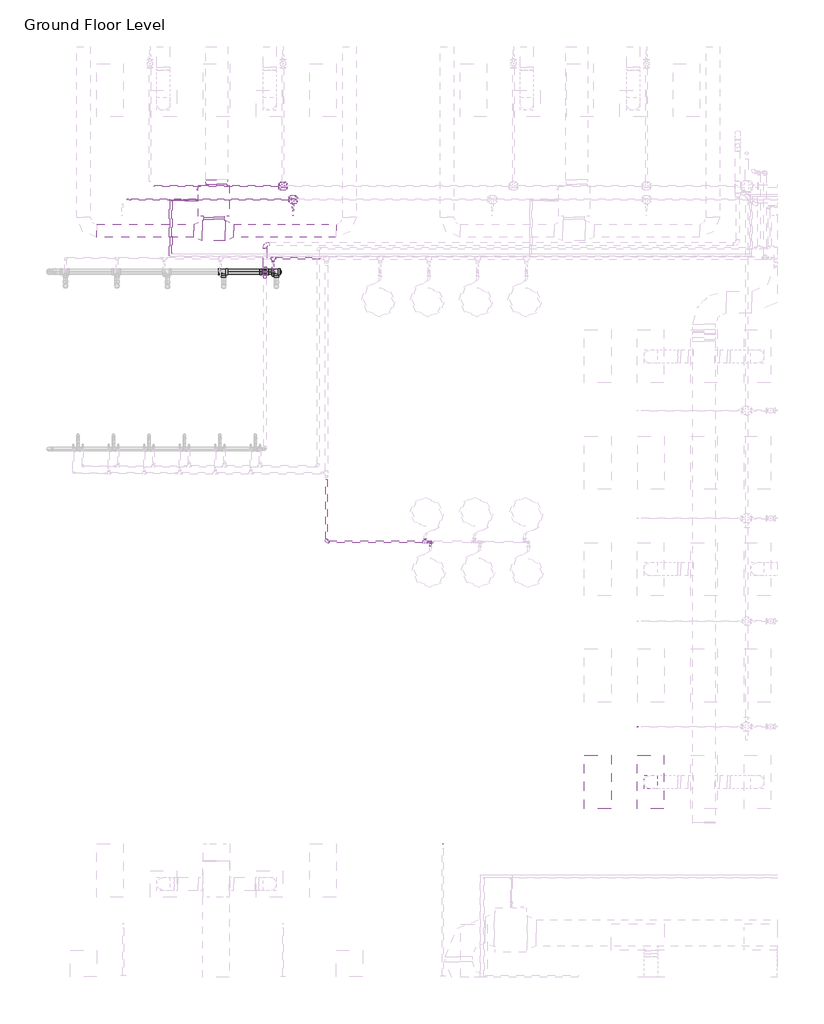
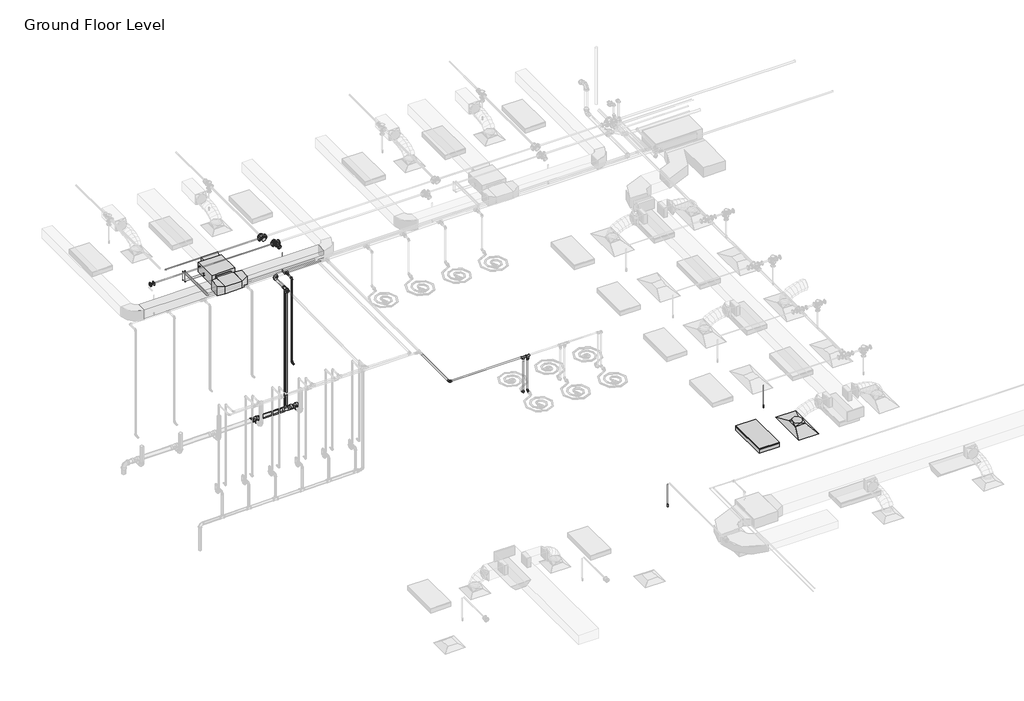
# One storey, part 44 of 75: 28 pipe segments, 25 pipe fittings, 5 duct fittings, 3 duct segments, 3 fire suppression terminals, 1 air terminal, 1 light fixture, 1 proxy.
"""IFC4 building model written with IfcOpenShell, lengths in millimetres."""

from ifc_helpers import new_model, si_unit, point, frame, frame_2d, origin, place, context, project, spatial, polyline, circle_curve, trimmed, segment, composite_curve, outline, extrude, transform, mapped, element, save
from components import m_return_diffuser_1200x600_1200_x_600_face_300_x_300_d1983ef6, fcu_daikin_iu_bad131e0, m_rectangular_tee_standard_fa4de0e8, m_rectangular_transition_angle_45_degree_5a11b24e, m_rectangular_transition_angle_45_degree_6e5ad010, m_rectangular_to_round_transition_angle_45_degree_641efff0, m_sprinkler_dry_pendent_hosted_15_mm_dry_pendent_9bda8e11, m_sprinkler_pendent_15_mm_pendent_06fcbd8e, m_troffer_light_parabolic_rectangular1_0600x1200mm_4_lamp_86473d4a, m_bend_pvc_sch_40_dwv_standard_1fdc8943, m_elbow_generic_standard_a088f956, m_elbow_generic_standard_2a704253, m_plug_pvc_sch_40_dwv_standard_6c40de1c, m_reducer_flanged_cs_class_150_standard_ccf252ad, m_reducer_pvc_sch_40_dwv_standard_d6f2da47, m_tee_reducing_sanitary_pvc_sch_40_dwv_standard_b49161a9, m_tee_reducing_sanitary_pvc_sch_40_dwv_standard_35af4ecc, m_tee_reducing_sanitary_pvc_sch_40_dwv_standard_9cd1363b, m_tee_round_base_flanged_cs_class_150_standard_7e5987a1, standard_517a5a8d, standard_08ff6011, standard_d0d0b892, standard_69e4ce0e

model = new_model("IFC4")

# Units and contexts
model_context = context("Model", 3, world=origin())
ifc_project = project(units=[si_unit("LENGTHUNIT", "METRE", prefix="MILLI")], contexts=[model_context])

# Site, building, storey
site = spatial("IfcSite", under=ifc_project)
building = spatial("IfcBuilding", under=site)
storey = spatial("IfcBuildingStorey", under=building, Name="Ground Floor Level", Elevation=900.0)

# Air terminal
placement = place(None, origin())
m_return_diffuser_1200x600_1200_x_600_face_300_x_300_shape = m_return_diffuser_1200x600_1200_x_600_face_300_x_300_d1983ef6(model_context)
element("IfcAirTerminal", 1, ObjectType="M_Supply Diffuser 1200x600 : 1200 x 600 Face 300 x 300 Connection", at=placement, inside=storey, context=model_context, shape_type="MappedRepresentation", body=[
    mapped(m_return_diffuser_1200x600_1200_x_600_face_300_x_300_shape, transform((-8142.6846929, 1635.2153534, 3650.0), x_axis=(0.0, 1.0, 0.0), y_axis=(-1.0, 0.0, 0.0), z_axis=(0.0, 0.0, 1.0))),
])

# Proxy
fcu_daikin_iu_shape = fcu_daikin_iu_bad131e0(model_context)
element("IfcBuildingElementProxy", 2, Name="FCU-DAIKIN IU : 4.5kW, 230V/50Hz/1Ph", ObjectType="FCU-DAIKIN IU : 4.5kW, 230V/50Hz/1Ph", at=placement, inside=storey, context=model_context, shape_type="MappedRepresentation", body=[
    mapped(fcu_daikin_iu_shape, transform((-17997.2327605, 14745.2153534, 3934.0881511), x_axis=(-1.0, 0.0, 0.0), y_axis=(0.0, -1.0, 0.0), z_axis=(0.0, 0.0, 1.0))),
])

# Duct fittings
m_rectangular_tee_standard_shape = m_rectangular_tee_standard_fa4de0e8(model_context)
element("IfcDuctFitting", 3, ObjectType="M_Rectangular Tee : Standard", at=placement, inside=storey, context=model_context, shape_type="MappedRepresentation", body=[
    mapped(m_rectangular_tee_standard_shape, transform((-17997.2327605, 14069.8153534, 4075.2881511), x_axis=(-1.0, 0.0, 0.0), y_axis=(0.0, -1.0, 0.0), z_axis=(0.0, 0.0, 1.0))),
])
m_rectangular_transition_angle_45_degree_shape = m_rectangular_transition_angle_45_degree_5a11b24e(model_context)
element("IfcDuctFitting", 4, ObjectType="M_Rectangular Transition - Angle : 45 Degree", at=placement, inside=storey, context=model_context, shape_type="MappedRepresentation", body=[
    mapped(m_rectangular_transition_angle_45_degree_shape, transform((-17933.7327605, 15120.6153534, 4100.0006511), x_axis=(0.0, 1.0, 0.0), y_axis=(-1.0, 0.0, 0.0), z_axis=(0.0, 0.0, 1.0))),
])
m_rectangular_transition_angle_45_degree_2_shape = m_rectangular_transition_angle_45_degree_6e5ad010(model_context)
element("IfcDuctFitting", 5, ObjectType="M_Rectangular Transition - Angle : 45 Degree", at=placement, inside=storey, context=model_context, shape_type="MappedRepresentation", body=[
    mapped(m_rectangular_transition_angle_45_degree_2_shape, transform((-17741.2952605, 14069.8153534, 4075.2881511), x_axis=(1.0, 0.0, 0.0), y_axis=(0.0, 1.0, 0.0), z_axis=(0.0, 0.0, 1.0))),
])
element("IfcDuctFitting", 6, ObjectType="M_Rectangular Transition - Angle : 45 Degree", at=placement, inside=storey, context=model_context, shape_type="MappedRepresentation", body=[
    mapped(m_rectangular_transition_angle_45_degree_2_shape, transform((-18253.1702605, 14069.8153534, 4075.2881511), x_axis=(-1.0, 0.0, 0.0), y_axis=(0.0, -1.0, 0.0), z_axis=(0.0, 0.0, 1.0))),
])
m_rectangular_to_round_transition_angle_45_degree_shape = m_rectangular_to_round_transition_angle_45_degree_641efff0(model_context)
element("IfcDuctFitting", 7, ObjectType="M_Rectangular to Round Transition - Angle : 45 Degree", at=placement, inside=storey, context=model_context, shape_type="MappedRepresentation", body=[
    mapped(m_rectangular_to_round_transition_angle_45_degree_shape, transform((-8142.6846929, 1635.2153534, 3751.6), x_axis=(0.0, 0.0, 1.0), y_axis=(-1.0, 0.0, 0.0), z_axis=(0.0, -1.0, 0.0))),
])

# Duct segments
element("IfcDuctSegment", 8, ObjectType="Radius Elbows / Taps", at=placement, inside=storey, context=model_context, shape_type="SweptSolid", body=[
    extrude(outline(polyline([(-18228.1702605, 14369.8153534), (-17766.2952605, 14369.8153534), (-17766.2952605, 14325.7528534), (-18228.1702605, 14325.7528534), (-18228.1702605, 14369.8153534)])), frame((0.0, 0.0, 3968.1381511), z_axis=(0.0, 0.0, 1.0), x_axis=(1.0, 0.0, 0.0)), (0.0, 0.0, 1.0), 214.3),
])
element("IfcDuctSegment", 9, ObjectType="Radius Elbows / Taps", at=placement, inside=storey, context=model_context, shape_type="SweptSolid", body=[
    extrude(outline(polyline([(-17545.8948503, 13919.8153534), (-17545.8948503, 14219.8153534), (-15237.2327605, 14219.8153534), (-15237.2327605, 13919.8153534), (-17545.8948503, 13919.8153534)])), frame((0.0, 0.0, 3925.2881511), z_axis=(0.0, 0.0, 1.0), x_axis=(1.0, 0.0, 0.0)), (0.0, 0.0, 1.0), 300.0),
])
element("IfcDuctSegment", 10, ObjectType="Radius Elbows / Taps", at=placement, inside=storey, context=model_context, shape_type="SweptSolid", body=[
    extrude(outline(polyline([(-18448.5706707, 14219.8153534), (-18448.5706707, 13919.8153534), (-20637.2327605, 13919.8153534), (-20637.2327605, 14219.8153534), (-18448.5706707, 14219.8153534)])), frame((0.0, 0.0, 3925.2881511), z_axis=(0.0, 0.0, 1.0), x_axis=(1.0, 0.0, 0.0)), (0.0, 0.0, 1.0), 300.0),
])

# Fire suppression terminals
m_sprinkler_dry_pendent_hosted_15_mm_dry_pendent_shape = m_sprinkler_dry_pendent_hosted_15_mm_dry_pendent_9bda8e11(model_context)
element("IfcFireSuppressionTerminal", 11, ObjectType="M_Sprinkler - Dry - Pendent - Hosted : 15 mm Dry Pendent", at=placement, inside=storey, context=model_context, shape_type="MappedRepresentation", body=[
    mapped(m_sprinkler_dry_pendent_hosted_15_mm_dry_pendent_shape, transform((-8437.2327605, 2881.5134565, 3650.0), x_axis=(1.0, 0.0, 0.0), y_axis=(0.0, -1.0, 0.0), z_axis=(0.0, 0.0, -1.0))),
])
element("IfcFireSuppressionTerminal", 12, ObjectType="M_Sprinkler - Dry - Pendent - Hosted : 15 mm Dry Pendent", at=placement, inside=storey, context=model_context, shape_type="MappedRepresentation", body=[
    mapped(m_sprinkler_dry_pendent_hosted_15_mm_dry_pendent_shape, transform((-12837.2327605, 235.2153534, 3650.0), x_axis=(1.0, 0.0, 0.0), y_axis=(0.0, -1.0, 0.0), z_axis=(0.0, 0.0, -1.0))),
])
m_sprinkler_pendent_15_mm_pendent_shape = m_sprinkler_pendent_15_mm_pendent_06fcbd8e(model_context)
element("IfcFireSuppressionTerminal", 13, ObjectType="M_Sprinkler - Pendent : 15 mm Pendent", at=placement, inside=storey, context=model_context, shape_type="MappedRepresentation", body=[
    mapped(m_sprinkler_pendent_15_mm_pendent_shape, transform((-16210.1138499, 14412.7243649, 3650.0), x_axis=(1.0, 0.0, 0.0), y_axis=(0.0, 1.0, 0.0), z_axis=(0.0, 0.0, 1.0))),
])

# Light fixture
m_troffer_light_parabolic_rectangular1_0600x1200mm_4_lamp_shape = m_troffer_light_parabolic_rectangular1_0600x1200mm_4_lamp_86473d4a(model_context)
element("IfcLightFixture", 14, ObjectType="M_Troffer Light - Parabolic Rectangular1 : 0600x1200mm(4 Lamp) - 277V 2", at=placement, inside=storey, context=model_context, shape_type="MappedRepresentation", body=[
    mapped(m_troffer_light_parabolic_rectangular1_0600x1200mm_4_lamp_shape, transform((-9396.6986926, 1653.918855, 3650.0), x_axis=(0.0, 1.0, 0.0), y_axis=(-1.0, 0.0, 0.0), z_axis=(0.0, 0.0, 1.0))),
])

# Pipe fittings
m_bend_pvc_sch_40_dwv_standard_shape = m_bend_pvc_sch_40_dwv_standard_1fdc8943(model_context)
element("IfcPipeFitting", 15, ObjectType="M_Bend - PVC - Sch 40 - DWV : Standard", at=placement, inside=storey, context=model_context, shape_type="MappedRepresentation", body=[
    mapped(m_bend_pvc_sch_40_dwv_standard_shape, transform((-16844.3158637, 13768.8048932, 4050.2768363), x_axis=(-0.9999500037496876, 0.0, -0.009999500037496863), y_axis=(0.0, -1.0, 0.0), z_axis=(-0.009999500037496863, 0.0, 0.9999500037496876))),
])
m_elbow_generic_standard_shape = m_elbow_generic_standard_a088f956(model_context)
element("IfcPipeFitting", 16, ObjectType="M_Elbow - Generic : Standard", at=placement, inside=storey, context=model_context, shape_type="MappedRepresentation", body=[
    mapped(m_elbow_generic_standard_shape, transform((-18945.3327605, 14745.2153534, 4034.0881511), x_axis=(-1.0, 0.0, 0.0), y_axis=(0.0, 0.0, 1.0), z_axis=(0.0, 1.0, 0.0))),
])
element("IfcPipeFitting", 17, ObjectType="M_Elbow - Generic : Standard", at=placement, inside=storey, context=model_context, shape_type="MappedRepresentation", body=[
    mapped(m_elbow_generic_standard_shape, transform((-18945.3327605, 14745.2153534, 4380.0), x_axis=(0.0, 0.0, 1.0), y_axis=(0.0, -1.0, 0.0), z_axis=(1.0, 0.0, 0.0))),
])
m_elbow_generic_standard_2_shape = m_elbow_generic_standard_2a704253(model_context)
element("IfcPipeFitting", 18, ObjectType="M_Elbow - Generic : Standard", at=placement, inside=storey, context=model_context, shape_type="MappedRepresentation", body=[
    mapped(m_elbow_generic_standard_2_shape, transform((-18995.0192947, 14770.2153534, 4365.0), x_axis=(0.0, 1.0, 0.0), y_axis=(0.0, 0.0, -1.0), z_axis=(-1.0, 0.0, 0.0))),
])
element("IfcPipeFitting", 19, ObjectType="M_Elbow - Generic : Standard", at=placement, inside=storey, context=model_context, shape_type="MappedRepresentation", body=[
    mapped(m_elbow_generic_standard_2_shape, transform((-18995.0192947, 14770.2153534, 4084.8881511), x_axis=(0.0, 0.0, -1.0), y_axis=(1.0, 0.0, 0.0), z_axis=(0.0, -1.0, 0.0))),
])
m_plug_pvc_sch_40_dwv_standard_shape = m_plug_pvc_sch_40_dwv_standard_6c40de1c(model_context)
element("IfcPipeFitting", 20, ObjectType="M_Plug - PVC - Sch 40 - DWV : Standard", at=placement, inside=storey, context=model_context, shape_type="MappedRepresentation", body=[
    mapped(m_plug_pvc_sch_40_dwv_standard_shape, transform((-16497.5246709, 13143.7240477, 252.0903992), x_axis=(0.9999500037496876, 0.0, 0.009999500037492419), y_axis=(0.0, 1.0, 0.0), z_axis=(-0.009999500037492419, 0.0, 0.9999500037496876))),
])
m_reducer_flanged_cs_class_150_standard_shape = m_reducer_flanged_cs_class_150_standard_ccf252ad(model_context)
element("IfcPipeFitting", 21, ObjectType="M_Reducer - Flanged - CS - Class 150 : Standard", at=placement, inside=storey, context=model_context, shape_type="MappedRepresentation", body=[
    mapped(m_reducer_flanged_cs_class_150_standard_shape, transform((-19856.6717995, 14773.4681847, 4291.0943441), x_axis=(-1.0, 0.0, 0.0), y_axis=(0.0, -1.0, 0.0), z_axis=(0.0, 0.0, 1.0))),
])
element("IfcPipeFitting", 22, ObjectType="M_Reducer - Flanged - CS - Class 150 : Standard", at=placement, inside=storey, context=model_context, shape_type="MappedRepresentation", body=[
    mapped(m_reducer_flanged_cs_class_150_standard_shape, transform((-16210.1138499, 14672.759591, 4291.0943441), x_axis=(0.0, -1.0, 0.0), y_axis=(1.0, 0.0, 0.0), z_axis=(0.0, 0.0, 1.0))),
])
m_reducer_pvc_sch_40_dwv_standard_shape = m_reducer_pvc_sch_40_dwv_standard_d6f2da47(model_context)
element("IfcPipeFitting", 23, ObjectType="M_Reducer - PVC - Sch 40 - DWV : Standard", at=placement, inside=storey, context=model_context, shape_type="MappedRepresentation", body=[
    mapped(m_reducer_pvc_sch_40_dwv_standard_shape, transform((-16844.3158637, 13068.078397, 4049.9889294), x_axis=(0.0, -0.9999576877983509, -0.009199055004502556), y_axis=(1.0000000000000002, 0.0, 0.0), z_axis=(0.0, -0.009199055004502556, 0.9999576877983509))),
])
m_tee_reducing_sanitary_pvc_sch_40_dwv_standard_shape = m_tee_reducing_sanitary_pvc_sch_40_dwv_standard_b49161a9(model_context)
element("IfcPipeFitting", 24, ObjectType="M_Tee Reducing Sanitary - PVC - Sch 40 - DWV : Standard", at=placement, inside=storey, context=model_context, shape_type="MappedRepresentation", body=[
    mapped(m_tee_reducing_sanitary_pvc_sch_40_dwv_standard_shape, transform((-17775.8329095, 13143.7240477, 239.3073168), x_axis=(0.9999500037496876, 0.0, 0.00999950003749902), y_axis=(0.0, 1.0000000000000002, 0.0), z_axis=(-0.00999950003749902, 0.0, 0.9999500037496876))),
])
element("IfcPipeFitting", 25, ObjectType="M_Tee Reducing Sanitary - PVC - Sch 40 - DWV : Standard", at=placement, inside=storey, context=model_context, shape_type="MappedRepresentation", body=[
    mapped(m_tee_reducing_sanitary_pvc_sch_40_dwv_standard_shape, transform((-16586.4202262, 13143.7240477, 251.2014437), x_axis=(0.9999500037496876, 0.0, 0.009999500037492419), y_axis=(0.0, 1.0, 0.0), z_axis=(-0.009999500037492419, 0.0, 0.9999500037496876))),
])
m_tee_reducing_sanitary_pvc_sch_40_dwv_standard_2_shape = m_tee_reducing_sanitary_pvc_sch_40_dwv_standard_35af4ecc(model_context)
element("IfcPipeFitting", 26, ObjectType="M_Tee Reducing Sanitary - PVC - Sch 40 - DWV : Standard", at=placement, inside=storey, context=model_context, shape_type="MappedRepresentation", body=[
    mapped(m_tee_reducing_sanitary_pvc_sch_40_dwv_standard_2_shape, transform((-16844.3824695, 13143.7240477, 248.6218212), x_axis=(0.9999500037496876, 0.0, 0.00999950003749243), y_axis=(0.00999950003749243, 0.0, -0.9999500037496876), z_axis=(0.0, 1.0, 0.0))),
])
m_tee_reducing_sanitary_pvc_sch_40_dwv_standard_3_shape = m_tee_reducing_sanitary_pvc_sch_40_dwv_standard_9cd1363b(model_context)
element("IfcPipeFitting", 27, ObjectType="M_Tee Reducing Sanitary - PVC - Sch 40 - DWV : Standard", at=placement, inside=storey, context=model_context, shape_type="MappedRepresentation", body=[
    mapped(m_tee_reducing_sanitary_pvc_sch_40_dwv_standard_3_shape, transform((-16844.3158637, 13143.7240477, 4050.2768363), x_axis=(0.0, -1.0, 0.0), y_axis=(-2.9192257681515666e-06, 0.0, 0.9999999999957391), z_axis=(-0.9999999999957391, 0.0, -2.9192257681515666e-06))),
])
m_tee_round_base_flanged_cs_class_150_standard_shape = m_tee_round_base_flanged_cs_class_150_standard_7e5987a1(model_context)
element("IfcPipeFitting", 28, ObjectType="M_Tee Round Base - Flanged - CS - Class 150 : Standard", at=placement, inside=storey, context=model_context, shape_type="MappedRepresentation", body=[
    mapped(m_tee_round_base_flanged_cs_class_150_standard_shape, transform((-16210.1138499, 14773.4681847, 4291.0943441), x_axis=(-1.0, 0.0, 0.0), y_axis=(0.0, 1.0, 0.0), z_axis=(0.0, 0.0, -1.0))),
])
element("IfcPipeFitting", 29, ObjectType="M_Tee Round Base - Flanged - CS - Class 150 : Standard", at=placement, inside=storey, context=model_context, shape_type="MappedRepresentation", body=[
    mapped(m_tee_round_base_flanged_cs_class_150_standard_shape, transform((-16437.2327605, 15073.2009828, 4360.0), x_axis=(-1.0, 0.0, 0.0), y_axis=(0.0, -1.0, 0.0), z_axis=(0.0, 0.0, 1.0))),
])
standard_shape = standard_517a5a8d(model_context)
element("IfcPipeFitting", 30, ObjectType="M_Elbow - CPVC - Sch 40 : Standard", at=placement, inside=storey, context=model_context, shape_type="MappedRepresentation", body=[
    mapped(standard_shape, transform((-16659.8589924, 13149.9865561, 4315.0), x_axis=(0.0, 0.0, 1.0), y_axis=(0.0, 1.0, 0.0), z_axis=(-1.0, 0.0, 0.0))),
])
element("IfcPipeFitting", 31, ObjectType="M_Elbow - CPVC - Sch 40 : Standard", at=placement, inside=storey, context=model_context, shape_type="MappedRepresentation", body=[
    mapped(standard_shape, transform((-16659.8589924, 13149.9865561, 1655.0), x_axis=(0.0, 0.0, -1.0), y_axis=(0.0, -1.0, 0.0), z_axis=(-1.0, 0.0, 0.0))),
])
element("IfcPipeFitting", 32, ObjectType="M_Elbow - CPVC - Sch 40 : Standard", at=placement, inside=storey, context=model_context, shape_type="MappedRepresentation", body=[
    mapped(standard_shape, transform((-13107.2327605, 7049.9865561, 3200.0), x_axis=(0.0, 0.0, -1.0), y_axis=(0.0, -1.0, 0.0), z_axis=(-1.0, 0.0, 0.0))),
])
element("IfcPipeFitting", 33, ObjectType="M_Elbow - CPVC - Sch 40 : Standard", at=placement, inside=storey, context=model_context, shape_type="MappedRepresentation", body=[
    mapped(standard_shape, transform((-13232.2327605, 7049.9865561, 3200.0), x_axis=(0.0, 0.0, -1.0), y_axis=(0.0, 1.0, 0.0), z_axis=(1.0, 0.0, 0.0))),
])
standard_2_shape = standard_08ff6011(model_context)
element("IfcPipeFitting", 34, ObjectType="M_Tee - CPVC - Sch 40 : Standard", at=placement, inside=storey, context=model_context, shape_type="MappedRepresentation", body=[
    mapped(standard_2_shape, transform((-16659.8589924, 13449.9865561, 4315.0), x_axis=(-1.0, 0.0, 0.0), y_axis=(0.0, 1.0, 0.0), z_axis=(0.0, 0.0, -1.0))),
])
element("IfcPipeFitting", 35, ObjectType="M_Tee - CPVC - Sch 40 : Standard", at=placement, inside=storey, context=model_context, shape_type="MappedRepresentation", body=[
    mapped(standard_2_shape, transform((-13107.2327605, 7049.9865561, 4315.0), x_axis=(-1.0, 0.0, 0.0), y_axis=(0.0, 0.0, 1.0), z_axis=(0.0, 1.0, 0.0))),
])
element("IfcPipeFitting", 36, ObjectType="M_Tee - CPVC - Sch 40 : Standard", at=placement, inside=storey, context=model_context, shape_type="MappedRepresentation", body=[
    mapped(standard_2_shape, transform((-13232.2327605, 7049.9865561, 4315.0), x_axis=(-1.0, 0.0, 0.0), y_axis=(0.0, 0.0, 1.0), z_axis=(0.0, 1.0, 0.0))),
])
standard_3_shape = standard_d0d0b892(model_context)
element("IfcPipeFitting", 37, ObjectType="M_Coupling Reducing - CPVC - Sch 40 : Standard", at=placement, inside=storey, context=model_context, shape_type="MappedRepresentation", body=[
    mapped(standard_3_shape, transform((-16659.8589924, 13396.0115561, 4315.0), x_axis=(0.0, -1.0, 0.0), y_axis=(1.0, 0.0, 0.0), z_axis=(0.0, 0.0, 1.0))),
])
element("IfcPipeFitting", 38, ObjectType="M_Coupling Reducing - CPVC - Sch 40 : Standard", at=placement, inside=storey, context=model_context, shape_type="MappedRepresentation", body=[
    mapped(standard_3_shape, transform((-13107.2327605, 7049.9865561, 4261.025), x_axis=(0.0, 0.0, -1.0), y_axis=(1.0, 0.0, 0.0), z_axis=(0.0, -1.0, 0.0))),
])
standard_4_shape = standard_69e4ce0e(model_context)
element("IfcPipeFitting", 39, ObjectType="M_Elbow - CPVC - Sch 40 : Standard", at=placement, inside=storey, context=model_context, shape_type="MappedRepresentation", body=[
    mapped(standard_4_shape, transform((-15455.6408298, 7049.9865561, 4315.0), x_axis=(0.0, -1.0, 0.0), y_axis=(1.0, 0.0, 0.0), z_axis=(0.0, 0.0, 1.0))),
])

# Pipe segments
element("IfcPipeSegment", 40, ObjectType="CPVC", at=placement, inside=storey, context=model_context, shape_type="SweptSolid", body=[
    extrude(outline(composite_curve([segment(trimmed(circle_curve(frame_2d((1655.0, -16659.8589924)), 16.7005), [point((1655.0, -16676.5594924))], [point((1638.2995, -16659.8589924))], False, "CARTESIAN"), True, "CONTINUOUS"), segment(trimmed(circle_curve(frame_2d((1655.0, -16659.8589924)), 16.7005), [point((1638.2995, -16659.8589924))], [point((1655.0, -16643.1584924))], False, "CARTESIAN"), True, "CONTINUOUS"), segment(trimmed(circle_curve(frame_2d((1655.0, -16659.8589924)), 16.7005), [point((1655.0, -16643.1584924))], [point((1671.7005, -16659.8589924))], False, "CARTESIAN"), True, "CONTINUOUS"), segment(trimmed(circle_curve(frame_2d((1655.0, -16659.8589924)), 16.7005), [point((1671.7005, -16659.8589924))], [point((1655.0, -16676.5594924))], False, "CARTESIAN"), True, "CONTINUOUS")], self_intersect=False)), frame((0.0, 13045.2153534, 0.0), z_axis=(0.0, 1.0, 0.0), x_axis=(0.0, 0.0, 1.0)), (0.0, 0.0, 1.0), 61.5086528),
])
element("IfcPipeSegment", 41, ObjectType="CPVC", at=placement, inside=storey, context=model_context, shape_type="SweptSolid", body=[
    extrude(outline(composite_curve([segment(trimmed(circle_curve(frame_2d((-16659.8589924, 13149.9865561)), 16.7005), [point((-16676.5594924, 13149.9865561))], [point((-16659.8589924, 13166.6870561))], False, "CARTESIAN"), True, "CONTINUOUS"), segment(trimmed(circle_curve(frame_2d((-16659.8589924, 13149.9865561)), 16.7005), [point((-16659.8589924, 13166.6870561))], [point((-16643.1584924, 13149.9865561))], False, "CARTESIAN"), True, "CONTINUOUS"), segment(trimmed(circle_curve(frame_2d((-16659.8589924, 13149.9865561)), 16.7005), [point((-16643.1584924, 13149.9865561))], [point((-16659.8589924, 13133.2860561))], False, "CARTESIAN"), True, "CONTINUOUS"), segment(trimmed(circle_curve(frame_2d((-16659.8589924, 13149.9865561)), 16.7005), [point((-16659.8589924, 13133.2860561))], [point((-16676.5594924, 13149.9865561))], False, "CARTESIAN"), True, "CONTINUOUS")], self_intersect=False)), frame((0.0, 0.0, 1698.26255), z_axis=(0.0, 0.0, 1.0), x_axis=(1.0, 0.0, 0.0)), (0.0, 0.0, 1.0), 2573.4749),
])
element("IfcPipeSegment", 42, ObjectType="CPVC", at=placement, inside=storey, context=model_context, shape_type="SweptSolid", body=[
    extrude(outline(composite_curve([segment(trimmed(circle_curve(frame_2d((4315.0, -16659.8589924)), 16.7005), [point((4315.0, -16643.1584924))], [point((4331.7005, -16659.8589924))], False, "CARTESIAN"), True, "CONTINUOUS"), segment(trimmed(circle_curve(frame_2d((4315.0, -16659.8589924)), 16.7005), [point((4331.7005, -16659.8589924))], [point((4315.0, -16676.5594924))], False, "CARTESIAN"), True, "CONTINUOUS"), segment(trimmed(circle_curve(frame_2d((4315.0, -16659.8589924)), 16.7005), [point((4315.0, -16676.5594924))], [point((4298.2995, -16659.8589924))], False, "CARTESIAN"), True, "CONTINUOUS"), segment(trimmed(circle_curve(frame_2d((4315.0, -16659.8589924)), 16.7005), [point((4298.2995, -16659.8589924))], [point((4315.0, -16643.1584924))], False, "CARTESIAN"), True, "CONTINUOUS")], self_intersect=False)), frame((0.0, 13193.2491061, 0.0), z_axis=(0.0, 1.0, 0.0), x_axis=(0.0, 0.0, 1.0)), (0.0, 0.0, 1.0), 136.643575),
])
element("IfcPipeSegment", 43, ObjectType="CPVC", at=placement, inside=storey, context=model_context, shape_type="SweptSolid", body=[
    extrude(outline(composite_curve([segment(trimmed(circle_curve(frame_2d((4315.0, -15455.6408298)), 21.082), [point((4315.0, -15476.7228298))], [point((4293.918, -15455.6408298))], False, "CARTESIAN"), True, "CONTINUOUS"), segment(trimmed(circle_curve(frame_2d((4315.0, -15455.6408298)), 21.082), [point((4293.918, -15455.6408298))], [point((4315.0, -15434.5588298))], False, "CARTESIAN"), True, "CONTINUOUS"), segment(trimmed(circle_curve(frame_2d((4315.0, -15455.6408298)), 21.082), [point((4315.0, -15434.5588298))], [point((4336.082, -15455.6408298))], False, "CARTESIAN"), True, "CONTINUOUS"), segment(trimmed(circle_curve(frame_2d((4315.0, -15455.6408298)), 21.082), [point((4336.082, -15455.6408298))], [point((4315.0, -15476.7228298))], False, "CARTESIAN"), True, "CONTINUOUS")], self_intersect=False)), frame((0.0, 7107.9303061, 0.0), z_axis=(0.0, 1.0, 0.0), x_axis=(0.0, 0.0, 1.0)), (0.0, 0.0, 1.0), 1355.4879172),
])
element("IfcPipeSegment", 44, ObjectType="CPVC", at=placement, inside=storey, context=model_context, shape_type="SweptSolid", body=[
    extrude(outline(composite_curve([segment(trimmed(circle_curve(frame_2d((13449.9865561, 4315.0)), 21.082), [point((13428.9045561, 4315.0))], [point((13449.9865561, 4336.082))], False, "CARTESIAN"), True, "CONTINUOUS"), segment(trimmed(circle_curve(frame_2d((13449.9865561, 4315.0)), 21.082), [point((13449.9865561, 4336.082))], [point((13471.0685561, 4315.0))], False, "CARTESIAN"), True, "CONTINUOUS"), segment(trimmed(circle_curve(frame_2d((13449.9865561, 4315.0)), 21.082), [point((13471.0685561, 4315.0))], [point((13449.9865561, 4293.918))], False, "CARTESIAN"), True, "CONTINUOUS"), segment(trimmed(circle_curve(frame_2d((13449.9865561, 4315.0)), 21.082), [point((13449.9865561, 4293.918))], [point((13428.9045561, 4315.0))], False, "CARTESIAN"), True, "CONTINUOUS")], self_intersect=False)), frame((-16605.8839924, 0.0, 0.0), z_axis=(1.0, 0.0, 0.0), x_axis=(0.0, 1.0, 0.0)), (0.0, 0.0, 1.0), 998.2294126),
])
element("IfcPipeSegment", 45, ObjectType="CPVC", at=placement, inside=storey, context=model_context, shape_type="SweptSolid", body=[
    extrude(outline(composite_curve([segment(trimmed(circle_curve(frame_2d((3200.0, -13107.2327605)), 16.7005), [point((3200.0, -13123.9332605))], [point((3183.2995, -13107.2327605))], False, "CARTESIAN"), True, "CONTINUOUS"), segment(trimmed(circle_curve(frame_2d((3200.0, -13107.2327605)), 16.7005), [point((3183.2995, -13107.2327605))], [point((3200.0, -13090.5322605))], False, "CARTESIAN"), True, "CONTINUOUS"), segment(trimmed(circle_curve(frame_2d((3200.0, -13107.2327605)), 16.7005), [point((3200.0, -13090.5322605))], [point((3216.7005, -13107.2327605))], False, "CARTESIAN"), True, "CONTINUOUS"), segment(trimmed(circle_curve(frame_2d((3200.0, -13107.2327605)), 16.7005), [point((3216.7005, -13107.2327605))], [point((3200.0, -13123.9332605))], False, "CARTESIAN"), True, "CONTINUOUS")], self_intersect=False)), frame((0.0, 6956.8347997, 0.0), z_axis=(0.0, 1.0, 0.0), x_axis=(0.0, 0.0, 1.0)), (0.0, 0.0, 1.0), 49.8892064),
])
element("IfcPipeSegment", 46, ObjectType="CPVC", at=placement, inside=storey, context=model_context, shape_type="SweptSolid", body=[
    extrude(outline(composite_curve([segment(trimmed(circle_curve(frame_2d((-13107.2327605, 7049.9865561)), 16.7005), [point((-13090.5322605, 7049.9865561))], [point((-13107.2327605, 7033.2860561))], False, "CARTESIAN"), True, "CONTINUOUS"), segment(trimmed(circle_curve(frame_2d((-13107.2327605, 7049.9865561)), 16.7005), [point((-13107.2327605, 7033.2860561))], [point((-13123.9332605, 7049.9865561))], False, "CARTESIAN"), True, "CONTINUOUS"), segment(trimmed(circle_curve(frame_2d((-13107.2327605, 7049.9865561)), 16.7005), [point((-13123.9332605, 7049.9865561))], [point((-13107.2327605, 7066.6870561))], False, "CARTESIAN"), True, "CONTINUOUS"), segment(trimmed(circle_curve(frame_2d((-13107.2327605, 7049.9865561)), 16.7005), [point((-13107.2327605, 7066.6870561))], [point((-13090.5322605, 7049.9865561))], False, "CARTESIAN"), True, "CONTINUOUS")], self_intersect=False)), frame((0.0, 0.0, 3243.26255), z_axis=(0.0, 0.0, 1.0), x_axis=(1.0, 0.0, 0.0)), (0.0, 0.0, 1.0), 951.643575),
])
element("IfcPipeSegment", 47, ObjectType="CPVC", at=placement, inside=storey, context=model_context, shape_type="SweptSolid", body=[
    extrude(outline(composite_curve([segment(trimmed(circle_curve(frame_2d((7049.9865561, 4315.0)), 21.082), [point((7028.9045561, 4315.0))], [point((7049.9865561, 4336.082))], False, "CARTESIAN"), True, "CONTINUOUS"), segment(trimmed(circle_curve(frame_2d((7049.9865561, 4315.0)), 21.082), [point((7049.9865561, 4336.082))], [point((7071.0685561, 4315.0))], False, "CARTESIAN"), True, "CONTINUOUS"), segment(trimmed(circle_curve(frame_2d((7049.9865561, 4315.0)), 21.082), [point((7071.0685561, 4315.0))], [point((7049.9865561, 4293.918))], False, "CARTESIAN"), True, "CONTINUOUS"), segment(trimmed(circle_curve(frame_2d((7049.9865561, 4315.0)), 21.082), [point((7049.9865561, 4293.918))], [point((7028.9045561, 4315.0))], False, "CARTESIAN"), True, "CONTINUOUS")], self_intersect=False)), frame((-13178.2577605, 0.0, 0.0), z_axis=(1.0, 0.0, 0.0), x_axis=(0.0, 1.0, 0.0)), (0.0, 0.0, 1.0), 17.05),
])
element("IfcPipeSegment", 48, ObjectType="CPVC", at=placement, inside=storey, context=model_context, shape_type="SweptSolid", body=[
    extrude(outline(composite_curve([segment(trimmed(circle_curve(frame_2d((3200.0, -13232.2327605)), 16.7005), [point((3200.0, -13215.5322605))], [point((3216.7005, -13232.2327605))], False, "CARTESIAN"), True, "CONTINUOUS"), segment(trimmed(circle_curve(frame_2d((3200.0, -13232.2327605)), 16.7005), [point((3216.7005, -13232.2327605))], [point((3200.0, -13248.9332605))], False, "CARTESIAN"), True, "CONTINUOUS"), segment(trimmed(circle_curve(frame_2d((3200.0, -13232.2327605)), 16.7005), [point((3200.0, -13248.9332605))], [point((3183.2995, -13232.2327605))], False, "CARTESIAN"), True, "CONTINUOUS"), segment(trimmed(circle_curve(frame_2d((3200.0, -13232.2327605)), 16.7005), [point((3183.2995, -13232.2327605))], [point((3200.0, -13215.5322605))], False, "CARTESIAN"), True, "CONTINUOUS")], self_intersect=False)), frame((0.0, 7093.2491061, 0.0), z_axis=(0.0, 1.0, 0.0), x_axis=(0.0, 0.0, 1.0)), (0.0, 0.0, 1.0), 30.346801),
])
element("IfcPipeSegment", 49, ObjectType="CPVC", at=placement, inside=storey, context=model_context, shape_type="SweptSolid", body=[
    extrude(outline(composite_curve([segment(trimmed(circle_curve(frame_2d((-13232.2327605, 7049.9865561)), 16.7005), [point((-13215.5322605, 7049.9865561))], [point((-13232.2327605, 7033.2860561))], False, "CARTESIAN"), True, "CONTINUOUS"), segment(trimmed(circle_curve(frame_2d((-13232.2327605, 7049.9865561)), 16.7005), [point((-13232.2327605, 7033.2860561))], [point((-13248.9332605, 7049.9865561))], False, "CARTESIAN"), True, "CONTINUOUS"), segment(trimmed(circle_curve(frame_2d((-13232.2327605, 7049.9865561)), 16.7005), [point((-13248.9332605, 7049.9865561))], [point((-13232.2327605, 7066.6870561))], False, "CARTESIAN"), True, "CONTINUOUS"), segment(trimmed(circle_curve(frame_2d((-13232.2327605, 7049.9865561)), 16.7005), [point((-13232.2327605, 7066.6870561))], [point((-13215.5322605, 7049.9865561))], False, "CARTESIAN"), True, "CONTINUOUS")], self_intersect=False)), frame((0.0, 0.0, 3243.26255), z_axis=(0.0, 0.0, 1.0), x_axis=(1.0, 0.0, 0.0)), (0.0, 0.0, 1.0), 951.643575),
])
element("IfcPipeSegment", 50, ObjectType="CPVC", at=placement, inside=storey, context=model_context, shape_type="SweptSolid", body=[
    extrude(outline(composite_curve([segment(trimmed(circle_curve(frame_2d((7049.9865561, 4315.0)), 21.082), [point((7028.9045561, 4315.0))], [point((7049.9865561, 4336.082))], False, "CARTESIAN"), True, "CONTINUOUS"), segment(trimmed(circle_curve(frame_2d((7049.9865561, 4315.0)), 21.082), [point((7049.9865561, 4336.082))], [point((7071.0685561, 4315.0))], False, "CARTESIAN"), True, "CONTINUOUS"), segment(trimmed(circle_curve(frame_2d((7049.9865561, 4315.0)), 21.082), [point((7071.0685561, 4315.0))], [point((7049.9865561, 4293.918))], False, "CARTESIAN"), True, "CONTINUOUS"), segment(trimmed(circle_curve(frame_2d((7049.9865561, 4315.0)), 21.082), [point((7049.9865561, 4293.918))], [point((7028.9045561, 4315.0))], False, "CARTESIAN"), True, "CONTINUOUS")], self_intersect=False)), frame((-15397.6970798, 0.0, 0.0), z_axis=(1.0, 0.0, 0.0), x_axis=(0.0, 1.0, 0.0)), (0.0, 0.0, 1.0), 2111.4893193),
])
element("IfcPipeSegment", 51, ObjectType="Copper", at=placement, inside=storey, context=model_context, shape_type="SweptSolid", body=[
    extrude(outline(composite_curve([segment(trimmed(circle_curve(frame_2d((14770.2153534, 4084.8881511)), 3.35), [point((14766.8653534, 4084.8881511))], [point((14770.2153534, 4088.2381511))], False, "CARTESIAN"), True, "CONTINUOUS"), segment(trimmed(circle_curve(frame_2d((14770.2153534, 4084.8881511)), 3.35), [point((14770.2153534, 4088.2381511))], [point((14773.5653534, 4084.8881511))], False, "CARTESIAN"), True, "CONTINUOUS"), segment(trimmed(circle_curve(frame_2d((14770.2153534, 4084.8881511)), 3.35), [point((14773.5653534, 4084.8881511))], [point((14770.2153534, 4081.5381511))], False, "CARTESIAN"), True, "CONTINUOUS"), segment(trimmed(circle_curve(frame_2d((14770.2153534, 4084.8881511)), 3.35), [point((14770.2153534, 4081.5381511))], [point((14766.8653534, 4084.8881511))], False, "CARTESIAN"), True, "CONTINUOUS")], self_intersect=False)), frame((-18983.8817947, 0.0, 0.0), z_axis=(1.0, 0.0, 0.0), x_axis=(0.0, 1.0, 0.0)), (0.0, 0.0, 1.0), 598.5490342),
])
element("IfcPipeSegment", 52, ObjectType="Copper", at=placement, inside=storey, context=model_context, shape_type="SweptSolid", body=[
    extrude(outline(composite_curve([segment(trimmed(circle_curve(frame_2d((4365.0, -18995.0192947)), 3.35), [point((4365.0, -18991.6692947))], [point((4368.35, -18995.0192947))], False, "CARTESIAN"), True, "CONTINUOUS"), segment(trimmed(circle_curve(frame_2d((4365.0, -18995.0192947)), 3.35), [point((4368.35, -18995.0192947))], [point((4365.0, -18998.3692947))], False, "CARTESIAN"), True, "CONTINUOUS"), segment(trimmed(circle_curve(frame_2d((4365.0, -18995.0192947)), 3.35), [point((4365.0, -18998.3692947))], [point((4361.65, -18995.0192947))], False, "CARTESIAN"), True, "CONTINUOUS"), segment(trimmed(circle_curve(frame_2d((4365.0, -18995.0192947)), 3.35), [point((4361.65, -18995.0192947))], [point((4365.0, -18991.6692947))], False, "CARTESIAN"), True, "CONTINUOUS")], self_intersect=False)), frame((0.0, 13505.1560138, 0.0), z_axis=(0.0, 1.0, 0.0), x_axis=(0.0, 0.0, 1.0)), (0.0, 0.0, 1.0), 1253.9218396),
])
element("IfcPipeSegment", 53, ObjectType="Copper", at=placement, inside=storey, context=model_context, shape_type="SweptSolid", body=[
    extrude(outline(composite_curve([segment(trimmed(circle_curve(frame_2d((-18995.0192947, 14770.2153534)), 3.35), [point((-18991.6692947, 14770.2153534))], [point((-18995.0192947, 14766.8653534))], False, "CARTESIAN"), True, "CONTINUOUS"), segment(trimmed(circle_curve(frame_2d((-18995.0192947, 14770.2153534)), 3.35), [point((-18995.0192947, 14766.8653534))], [point((-18998.3692947, 14770.2153534))], False, "CARTESIAN"), True, "CONTINUOUS"), segment(trimmed(circle_curve(frame_2d((-18995.0192947, 14770.2153534)), 3.35), [point((-18998.3692947, 14770.2153534))], [point((-18995.0192947, 14773.5653534))], False, "CARTESIAN"), True, "CONTINUOUS"), segment(trimmed(circle_curve(frame_2d((-18995.0192947, 14770.2153534)), 3.35), [point((-18995.0192947, 14773.5653534))], [point((-18991.6692947, 14770.2153534))], False, "CARTESIAN"), True, "CONTINUOUS")], self_intersect=False)), frame((0.0, 0.0, 4096.0256511), z_axis=(0.0, 0.0, 1.0), x_axis=(1.0, 0.0, 0.0)), (0.0, 0.0, 1.0), 257.8368489),
])
element("IfcPipeSegment", 54, ObjectType="Copper", at=placement, inside=storey, context=model_context, shape_type="SweptSolid", body=[
    extrude(outline(composite_curve([segment(trimmed(circle_curve(frame_2d((14745.2153534, 4034.0881511)), 6.5), [point((14751.7153534, 4034.0881511))], [point((14745.2153534, 4027.5881511))], False, "CARTESIAN"), True, "CONTINUOUS"), segment(trimmed(circle_curve(frame_2d((14745.2153534, 4034.0881511)), 6.5), [point((14745.2153534, 4027.5881511))], [point((14738.7153534, 4034.0881511))], False, "CARTESIAN"), True, "CONTINUOUS"), segment(trimmed(circle_curve(frame_2d((14745.2153534, 4034.0881511)), 6.5), [point((14738.7153534, 4034.0881511))], [point((14745.2153534, 4040.5881511))], False, "CARTESIAN"), True, "CONTINUOUS"), segment(trimmed(circle_curve(frame_2d((14745.2153534, 4034.0881511)), 6.5), [point((14745.2153534, 4040.5881511))], [point((14751.7153534, 4034.0881511))], False, "CARTESIAN"), True, "CONTINUOUS")], self_intersect=False)), frame((-18931.0452605, 0.0, 0.0), z_axis=(1.0, 0.0, 0.0), x_axis=(0.0, 1.0, 0.0)), (0.0, 0.0, 1.0), 545.7125),
])
element("IfcPipeSegment", 55, ObjectType="Copper", at=placement, inside=storey, context=model_context, shape_type="SweptSolid", body=[
    extrude(outline(composite_curve([segment(trimmed(circle_curve(frame_2d((-18945.3327605, 14745.2153534)), 6.5), [point((-18951.8327605, 14745.2153534))], [point((-18945.3327605, 14751.7153534))], False, "CARTESIAN"), True, "CONTINUOUS"), segment(trimmed(circle_curve(frame_2d((-18945.3327605, 14745.2153534)), 6.5), [point((-18945.3327605, 14751.7153534))], [point((-18938.8327605, 14745.2153534))], False, "CARTESIAN"), True, "CONTINUOUS"), segment(trimmed(circle_curve(frame_2d((-18945.3327605, 14745.2153534)), 6.5), [point((-18938.8327605, 14745.2153534))], [point((-18945.3327605, 14738.7153534))], False, "CARTESIAN"), True, "CONTINUOUS"), segment(trimmed(circle_curve(frame_2d((-18945.3327605, 14745.2153534)), 6.5), [point((-18945.3327605, 14738.7153534))], [point((-18951.8327605, 14745.2153534))], False, "CARTESIAN"), True, "CONTINUOUS")], self_intersect=False)), frame((0.0, 0.0, 4048.3756511), z_axis=(0.0, 0.0, 1.0), x_axis=(1.0, 0.0, 0.0)), (0.0, 0.0, 1.0), 317.3368489),
])
element("IfcPipeSegment", 56, ObjectType="Copper", at=placement, inside=storey, context=model_context, shape_type="SweptSolid", body=[
    extrude(outline(composite_curve([segment(trimmed(circle_curve(frame_2d((4380.0, -18945.3327605)), 6.5), [point((4380.0, -18951.8327605))], [point((4373.5, -18945.3327605))], False, "CARTESIAN"), True, "CONTINUOUS"), segment(trimmed(circle_curve(frame_2d((4380.0, -18945.3327605)), 6.5), [point((4373.5, -18945.3327605))], [point((4380.0, -18938.8327605))], False, "CARTESIAN"), True, "CONTINUOUS"), segment(trimmed(circle_curve(frame_2d((4380.0, -18945.3327605)), 6.5), [point((4380.0, -18938.8327605))], [point((4386.5, -18945.3327605))], False, "CARTESIAN"), True, "CONTINUOUS"), segment(trimmed(circle_curve(frame_2d((4380.0, -18945.3327605)), 6.5), [point((4386.5, -18945.3327605))], [point((4380.0, -18951.8327605))], False, "CARTESIAN"), True, "CONTINUOUS")], self_intersect=False)), frame((0.0, 13559.5028534, 0.0), z_axis=(0.0, 1.0, 0.0), x_axis=(0.0, 0.0, 1.0)), (0.0, 0.0, 1.0), 1171.425),
])
element("IfcPipeSegment", 57, ObjectType="PVC - DWV", at=placement, inside=storey, context=model_context, shape_type="SweptSolid", body=[
    extrude(outline(composite_curve([segment(trimmed(circle_curve(frame_2d((0.0, -57.15)), 57.15), [point((0.0, 0.0))], [point((57.15, -57.15))], False, "CARTESIAN"), True, "CONTINUOUS"), segment(trimmed(circle_curve(frame_2d((0.0, -57.15)), 57.15), [point((57.15, -57.15))], [point((0.0, -114.3))], False, "CARTESIAN"), True, "CONTINUOUS"), segment(trimmed(circle_curve(frame_2d((0.0, -57.15)), 57.15), [point((0.0, -114.3))], [point((-57.15, -57.15))], False, "CARTESIAN"), True, "CONTINUOUS"), segment(trimmed(circle_curve(frame_2d((0.0, -57.15)), 57.15), [point((-57.15, -57.15))], [point((0.0, 0.0))], False, "CARTESIAN"), True, "CONTINUOUS")], self_intersect=False)), frame((-17686.9373542, 13200.8740477, 240.1962724), z_axis=(0.9999500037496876, 0.0, 0.009999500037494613), x_axis=(0.009999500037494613, 0.0, -0.9999500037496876)), (0.0, 0.0, 1.0), 730.9371051),
])
element("IfcPipeSegment", 58, ObjectType="PVC - DWV", at=placement, inside=storey, context=model_context, shape_type="SweptSolid", body=[
    extrude(outline(composite_curve([segment(trimmed(circle_curve(frame_2d((0.0, 36.5125)), 36.5125), [point((-36.5125, 36.5125))], [point((0.0, 73.025))], False, "CARTESIAN"), True, "CONTINUOUS"), segment(trimmed(circle_curve(frame_2d((0.0, 36.5125)), 36.5125), [point((0.0, 73.025))], [point((36.5125, 36.5125))], False, "CARTESIAN"), True, "CONTINUOUS"), segment(trimmed(circle_curve(frame_2d((0.0, 36.5125)), 36.5125), [point((36.5125, 36.5125))], [point((0.0, 0.0))], False, "CARTESIAN"), True, "CONTINUOUS"), segment(trimmed(circle_curve(frame_2d((0.0, 36.5125)), 36.5125), [point((0.0, 0.0))], [point((-36.5125, 36.5125))], False, "CARTESIAN"), True, "CONTINUOUS")], self_intersect=False)), frame((-16844.3166754, 13107.2115477, 367.13979), z_axis=(3.079824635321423e-07, 0.0, 0.9999999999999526), x_axis=(0.9999999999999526, 0.0, -3.079824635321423e-07)), (0.0, 0.0, 1.0), 3583.1690776),
])
element("IfcPipeSegment", 59, ObjectType="PVC - DWV", at=placement, inside=storey, context=model_context, shape_type="SweptSolid", body=[
    extrude(outline(composite_curve([segment(trimmed(circle_curve(frame_2d((0.0, -57.15)), 57.15), [point((0.0, 0.0))], [point((57.15, -57.15))], False, "CARTESIAN"), True, "CONTINUOUS"), segment(trimmed(circle_curve(frame_2d((0.0, -57.15)), 57.15), [point((57.15, -57.15))], [point((0.0, -114.3))], False, "CARTESIAN"), True, "CONTINUOUS"), segment(trimmed(circle_curve(frame_2d((0.0, -57.15)), 57.15), [point((0.0, -114.3))], [point((-57.15, -57.15))], False, "CARTESIAN"), True, "CONTINUOUS"), segment(trimmed(circle_curve(frame_2d((0.0, -57.15)), 57.15), [point((-57.15, -57.15))], [point((0.0, 0.0))], False, "CARTESIAN"), True, "CONTINUOUS")], self_intersect=False)), frame((-16755.9725021, 13200.8740477, 249.5059209), z_axis=(0.9999500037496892, 0.0, 0.009999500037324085), x_axis=(0.009999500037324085, 0.0, -0.9999500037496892)), (0.0, 0.0, 1.0), 48.9107533),
])
element("IfcPipeSegment", 60, ObjectType="PVC - DWV", at=placement, inside=storey, context=model_context, shape_type="SweptSolid", body=[
    extrude(outline(composite_curve([segment(trimmed(circle_curve(frame_2d((4050.2768363, -16844.3158637)), 36.5125), [point((4050.2768363, -16807.8033637))], [point((4086.7893363, -16844.3158637))], False, "CARTESIAN"), True, "CONTINUOUS"), segment(trimmed(circle_curve(frame_2d((4050.2768363, -16844.3158637)), 36.5125), [point((4086.7893363, -16844.3158637))], [point((4050.2768363, -16880.8283637))], False, "CARTESIAN"), True, "CONTINUOUS"), segment(trimmed(circle_curve(frame_2d((4050.2768363, -16844.3158637)), 36.5125), [point((4050.2768363, -16880.8283637))], [point((4013.7643363, -16844.3158637))], False, "CARTESIAN"), True, "CONTINUOUS"), segment(trimmed(circle_curve(frame_2d((4050.2768363, -16844.3158637)), 36.5125), [point((4013.7643363, -16844.3158637))], [point((4050.2768363, -16807.8033637))], False, "CARTESIAN"), True, "CONTINUOUS")], self_intersect=False)), frame((0.0, 13241.5371665, 0.0), z_axis=(0.0, 1.0, 0.0), x_axis=(0.0, 0.0, 1.0)), (0.0, 0.0, 1.0), 428.2536642),
])
element("IfcPipeSegment", 61, ObjectType="PVC - DWV", at=placement, inside=storey, context=model_context, shape_type="SweptSolid", body=[
    extrude(outline(composite_curve([segment(trimmed(circle_curve(frame_2d((4049.9889294, -16844.3158637)), 36.5125), [point((4049.9889294, -16880.8283637))], [point((4013.4764294, -16844.3158637))], False, "CARTESIAN"), True, "CONTINUOUS"), segment(trimmed(circle_curve(frame_2d((4049.9889294, -16844.3158637)), 36.5125), [point((4013.4764294, -16844.3158637))], [point((4049.9889294, -16807.8033637))], False, "CARTESIAN"), True, "CONTINUOUS"), segment(trimmed(circle_curve(frame_2d((4049.9889294, -16844.3158637)), 36.5125), [point((4049.9889294, -16807.8033637))], [point((4086.5014294, -16844.3158637))], False, "CARTESIAN"), True, "CONTINUOUS"), segment(trimmed(circle_curve(frame_2d((4049.9889294, -16844.3158637)), 36.5125), [point((4086.5014294, -16844.3158637))], [point((4049.9889294, -16880.8283637))], False, "CARTESIAN"), True, "CONTINUOUS")], self_intersect=False)), frame((0.0, 13068.078397, 0.0), z_axis=(0.0, 1.0, 0.0), x_axis=(0.0, 0.0, 1.0)), (0.0, 0.0, 1.0), 4.2961132),
])
element("IfcPipeSegment", 62, ObjectType="Steel flanged", at=placement, inside=storey, context=model_context, shape_type="SweptSolid", body=[
    extrude(outline(composite_curve([segment(trimmed(circle_curve(frame_2d((-16210.1138499, 14412.7243649)), 10.668), [point((-16220.7818499, 14412.7243649))], [point((-16210.1138499, 14423.3923649))], False, "CARTESIAN"), True, "CONTINUOUS"), segment(trimmed(circle_curve(frame_2d((-16210.1138499, 14412.7243649)), 10.668), [point((-16210.1138499, 14423.3923649))], [point((-16199.4458499, 14412.7243649))], False, "CARTESIAN"), True, "CONTINUOUS"), segment(trimmed(circle_curve(frame_2d((-16210.1138499, 14412.7243649)), 10.668), [point((-16199.4458499, 14412.7243649))], [point((-16210.1138499, 14402.0563649))], False, "CARTESIAN"), True, "CONTINUOUS"), segment(trimmed(circle_curve(frame_2d((-16210.1138499, 14412.7243649)), 10.668), [point((-16210.1138499, 14402.0563649))], [point((-16220.7818499, 14412.7243649))], False, "CARTESIAN"), True, "CONTINUOUS")], self_intersect=False)), frame((0.0, 0.0, 3650.0), z_axis=(0.0, 0.0, 1.0), x_axis=(1.0, 0.0, 0.0)), (0.0, 0.0, 1.0), 548.2668816),
])
element("IfcPipeSegment", 63, ObjectType="Steel flanged", at=placement, inside=storey, context=model_context, shape_type="SweptSolid", body=[
    extrude(outline(composite_curve([segment(trimmed(circle_curve(frame_2d((4291.0943441, -16210.1138499)), 10.668), [point((4291.0943441, -16199.4458499))], [point((4301.7623441, -16210.1138499))], False, "CARTESIAN"), True, "CONTINUOUS"), segment(trimmed(circle_curve(frame_2d((4291.0943441, -16210.1138499)), 10.668), [point((4301.7623441, -16210.1138499))], [point((4291.0943441, -16220.7818499))], False, "CARTESIAN"), True, "CONTINUOUS"), segment(trimmed(circle_curve(frame_2d((4291.0943441, -16210.1138499)), 10.668), [point((4291.0943441, -16220.7818499))], [point((4280.4263441, -16210.1138499))], False, "CARTESIAN"), True, "CONTINUOUS"), segment(trimmed(circle_curve(frame_2d((4291.0943441, -16210.1138499)), 10.668), [point((4280.4263441, -16210.1138499))], [point((4291.0943441, -16199.4458499))], False, "CARTESIAN"), True, "CONTINUOUS")], self_intersect=False)), frame((0.0, 14505.7329586, 0.0), z_axis=(0.0, 1.0, 0.0), x_axis=(0.0, 0.0, 1.0)), (0.0, 0.0, 1.0), 53.0266324),
])
element("IfcPipeSegment", 64, ObjectType="Steel flanged", at=placement, inside=storey, context=model_context, shape_type="SweptSolid", body=[
    extrude(outline(composite_curve([segment(trimmed(circle_curve(frame_2d((14773.4681847, 4291.0943441)), 16.7005), [point((14756.7676847, 4291.0943441))], [point((14773.4681847, 4307.7948441))], False, "CARTESIAN"), True, "CONTINUOUS"), segment(trimmed(circle_curve(frame_2d((14773.4681847, 4291.0943441)), 16.7005), [point((14773.4681847, 4307.7948441))], [point((14790.1686847, 4291.0943441))], False, "CARTESIAN"), True, "CONTINUOUS"), segment(trimmed(circle_curve(frame_2d((14773.4681847, 4291.0943441)), 16.7005), [point((14790.1686847, 4291.0943441))], [point((14773.4681847, 4274.3938441))], False, "CARTESIAN"), True, "CONTINUOUS"), segment(trimmed(circle_curve(frame_2d((14773.4681847, 4291.0943441)), 16.7005), [point((14773.4681847, 4274.3938441))], [point((14756.7676847, 4291.0943441))], False, "CARTESIAN"), True, "CONTINUOUS")], self_intersect=False)), frame((-19856.6717995, 0.0, 0.0), z_axis=(1.0, 0.0, 0.0), x_axis=(0.0, 1.0, 0.0)), (0.0, 0.0, 1.0), 3545.8493558),
])
element("IfcPipeSegment", 65, ObjectType="Steel flanged", at=placement, inside=storey, context=model_context, shape_type="SweptSolid", body=[
    extrude(outline(composite_curve([segment(trimmed(circle_curve(frame_2d((15073.2009828, 4360.0)), 16.7005), [point((15056.5004828, 4360.0))], [point((15073.2009828, 4376.7005))], False, "CARTESIAN"), True, "CONTINUOUS"), segment(trimmed(circle_curve(frame_2d((15073.2009828, 4360.0)), 16.7005), [point((15073.2009828, 4376.7005))], [point((15089.9014828, 4360.0))], False, "CARTESIAN"), True, "CONTINUOUS"), segment(trimmed(circle_curve(frame_2d((15073.2009828, 4360.0)), 16.7005), [point((15089.9014828, 4360.0))], [point((15073.2009828, 4343.2995))], False, "CARTESIAN"), True, "CONTINUOUS"), segment(trimmed(circle_curve(frame_2d((15073.2009828, 4360.0)), 16.7005), [point((15073.2009828, 4343.2995))], [point((15056.5004828, 4360.0))], False, "CARTESIAN"), True, "CONTINUOUS")], self_intersect=False)), frame((-19336.5241668, 0.0, 0.0), z_axis=(1.0, 0.0, 0.0), x_axis=(0.0, 1.0, 0.0)), (0.0, 0.0, 1.0), 2798.5828125),
])
element("IfcPipeSegment", 66, ObjectType="Steel flanged", at=placement, inside=storey, context=model_context, shape_type="SweptSolid", body=[
    extrude(outline(composite_curve([segment(trimmed(circle_curve(frame_2d((-8437.2327605, 2881.5134565)), 10.668), [point((-8447.9007605, 2881.5134565))], [point((-8437.2327605, 2892.1814565))], False, "CARTESIAN"), True, "CONTINUOUS"), segment(trimmed(circle_curve(frame_2d((-8437.2327605, 2881.5134565)), 10.668), [point((-8437.2327605, 2892.1814565))], [point((-8426.5647605, 2881.5134565))], False, "CARTESIAN"), True, "CONTINUOUS"), segment(trimmed(circle_curve(frame_2d((-8437.2327605, 2881.5134565)), 10.668), [point((-8426.5647605, 2881.5134565))], [point((-8437.2327605, 2870.8454565))], False, "CARTESIAN"), True, "CONTINUOUS"), segment(trimmed(circle_curve(frame_2d((-8437.2327605, 2881.5134565)), 10.668), [point((-8437.2327605, 2870.8454565))], [point((-8447.9007605, 2881.5134565))], False, "CARTESIAN"), True, "CONTINUOUS")], self_intersect=False)), frame((0.0, 0.0, 3650.0), z_axis=(0.0, 0.0, 1.0), x_axis=(1.0, 0.0, 0.0)), (0.0, 0.0, 1.0), 616.9914062),
])
element("IfcPipeSegment", 67, ObjectType="Steel flanged", at=placement, inside=storey, context=model_context, shape_type="SweptSolid", body=[
    extrude(outline(composite_curve([segment(trimmed(circle_curve(frame_2d((-12837.2327605, 235.2153534)), 10.668), [point((-12847.9007605, 235.2153534))], [point((-12837.2327605, 245.8833534))], False, "CARTESIAN"), True, "CONTINUOUS"), segment(trimmed(circle_curve(frame_2d((-12837.2327605, 235.2153534)), 10.668), [point((-12837.2327605, 245.8833534))], [point((-12826.5647605, 235.2153534))], False, "CARTESIAN"), True, "CONTINUOUS"), segment(trimmed(circle_curve(frame_2d((-12837.2327605, 235.2153534)), 10.668), [point((-12826.5647605, 235.2153534))], [point((-12837.2327605, 224.5473534))], False, "CARTESIAN"), True, "CONTINUOUS"), segment(trimmed(circle_curve(frame_2d((-12837.2327605, 235.2153534)), 10.668), [point((-12837.2327605, 224.5473534))], [point((-12847.9007605, 235.2153534))], False, "CARTESIAN"), True, "CONTINUOUS")], self_intersect=False)), frame((0.0, 0.0, 3650.0), z_axis=(0.0, 0.0, 1.0), x_axis=(1.0, 0.0, 0.0)), (0.0, 0.0, 1.0), 616.9914062),
])

save(model, "model.ifc")
